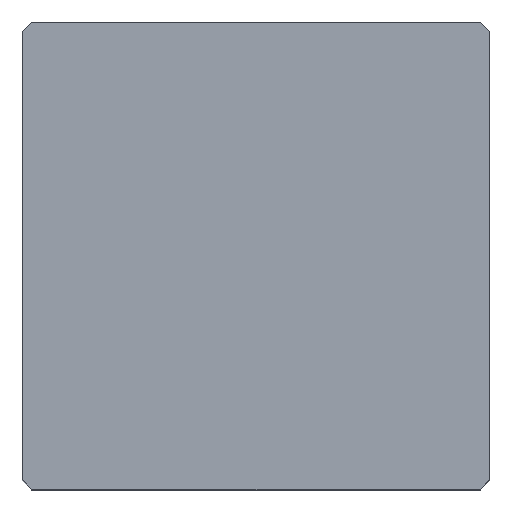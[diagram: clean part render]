
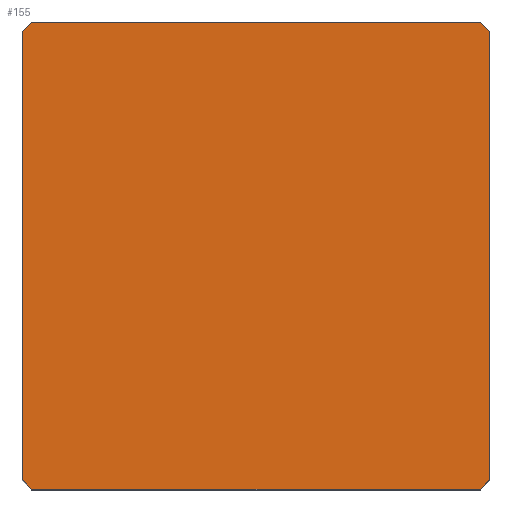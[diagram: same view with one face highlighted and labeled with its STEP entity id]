
A CAD part, top view. The second image highlights one B-rep face of the part: STEP entity #155.
In plain terms, the highlighted planar face has unit normal (0, 0, 1).
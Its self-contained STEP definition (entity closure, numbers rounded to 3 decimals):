
#39 = EDGE_CURVE('',#40,#42,#44,.T.);
#40 = VERTEX_POINT('',#41);
#41 = CARTESIAN_POINT('',(-10.,-9.6,20.75));
#42 = VERTEX_POINT('',#43);
#43 = CARTESIAN_POINT('',(-10.,9.6,20.75));
#44 = SURFACE_CURVE('',#45,(#49,#61),.PCURVE_S1.);
#45 = LINE('',#46,#47);
#46 = CARTESIAN_POINT('',(-10.,-10.,20.75));
#47 = VECTOR('',#48,1.);
#48 = DIRECTION('',(-0.,1.,0.));
#49 = PCURVE('',#50,#55);
#50 = PLANE('',#51);
#51 = AXIS2_PLACEMENT_3D('',#52,#53,#54);
#52 = CARTESIAN_POINT('',(-10.,-10.,0.));
#53 = DIRECTION('',(1.,0.,-0.));
#54 = DIRECTION('',(0.,0.,1.));
#55 = DEFINITIONAL_REPRESENTATION('',(#56),#60);
#56 = LINE('',#57,#58);
#57 = CARTESIAN_POINT('',(20.75,0.));
#58 = VECTOR('',#59,1.);
#59 = DIRECTION('',(0.,-1.));
#60 = ( GEOMETRIC_REPRESENTATION_CONTEXT(2) 
PARAMETRIC_REPRESENTATION_CONTEXT() REPRESENTATION_CONTEXT('2D SPACE',''
  ) );
#61 = PCURVE('',#62,#67);
#62 = PLANE('',#63);
#63 = AXIS2_PLACEMENT_3D('',#64,#65,#66);
#64 = CARTESIAN_POINT('',(-10.,-10.,20.75));
#65 = DIRECTION('',(0.,0.,1.));
#66 = DIRECTION('',(1.,0.,-0.));
#67 = DEFINITIONAL_REPRESENTATION('',(#68),#72);
#68 = LINE('',#69,#70);
#69 = CARTESIAN_POINT('',(0.,0.));
#70 = VECTOR('',#71,1.);
#71 = DIRECTION('',(0.,1.));
#72 = ( GEOMETRIC_REPRESENTATION_CONTEXT(2) 
PARAMETRIC_REPRESENTATION_CONTEXT() REPRESENTATION_CONTEXT('2D SPACE',''
  ) );
#90 = PLANE('',#91);
#91 = AXIS2_PLACEMENT_3D('',#92,#93,#94);
#92 = CARTESIAN_POINT('',(-9.8,-9.8,0.));
#93 = DIRECTION('',(-0.707,-0.707,0.));
#94 = DIRECTION('',(-0.,-0.,-1.));
#144 = PLANE('',#145);
#145 = AXIS2_PLACEMENT_3D('',#146,#147,#148);
#146 = CARTESIAN_POINT('',(-9.8,9.8,0.));
#147 = DIRECTION('',(0.707,-0.707,0.));
#148 = DIRECTION('',(-0.,-0.,-1.));
#155 = ADVANCED_FACE('',(#156),#62,.T.);
#156 = FACE_BOUND('',#157,.T.);
#157 = EDGE_LOOP('',(#158,#159,#182,#210,#238,#266,#294,#322));
#158 = ORIENTED_EDGE('',*,*,#39,.F.);
#159 = ORIENTED_EDGE('',*,*,#160,.T.);
#160 = EDGE_CURVE('',#40,#161,#163,.T.);
#161 = VERTEX_POINT('',#162);
#162 = CARTESIAN_POINT('',(-9.6,-10.,20.75));
#163 = SURFACE_CURVE('',#164,(#168,#175),.PCURVE_S1.);
#164 = LINE('',#165,#166);
#165 = CARTESIAN_POINT('',(-9.8,-9.8,20.75));
#166 = VECTOR('',#167,1.);
#167 = DIRECTION('',(0.707,-0.707,0.));
#168 = PCURVE('',#62,#169);
#169 = DEFINITIONAL_REPRESENTATION('',(#170),#174);
#170 = LINE('',#171,#172);
#171 = CARTESIAN_POINT('',(0.2,0.2));
#172 = VECTOR('',#173,1.);
#173 = DIRECTION('',(0.707,-0.707));
#174 = ( GEOMETRIC_REPRESENTATION_CONTEXT(2) 
PARAMETRIC_REPRESENTATION_CONTEXT() REPRESENTATION_CONTEXT('2D SPACE',''
  ) );
#175 = PCURVE('',#90,#176);
#176 = DEFINITIONAL_REPRESENTATION('',(#177),#181);
#177 = LINE('',#178,#179);
#178 = CARTESIAN_POINT('',(-20.75,0.));
#179 = VECTOR('',#180,1.);
#180 = DIRECTION('',(-0.,1.));
#181 = ( GEOMETRIC_REPRESENTATION_CONTEXT(2) 
PARAMETRIC_REPRESENTATION_CONTEXT() REPRESENTATION_CONTEXT('2D SPACE',''
  ) );
#182 = ORIENTED_EDGE('',*,*,#183,.T.);
#183 = EDGE_CURVE('',#161,#184,#186,.T.);
#184 = VERTEX_POINT('',#185);
#185 = CARTESIAN_POINT('',(9.6,-10.,20.75));
#186 = SURFACE_CURVE('',#187,(#191,#198),.PCURVE_S1.);
#187 = LINE('',#188,#189);
#188 = CARTESIAN_POINT('',(-10.,-10.,20.75));
#189 = VECTOR('',#190,1.);
#190 = DIRECTION('',(1.,0.,-0.));
#191 = PCURVE('',#62,#192);
#192 = DEFINITIONAL_REPRESENTATION('',(#193),#197);
#193 = LINE('',#194,#195);
#194 = CARTESIAN_POINT('',(0.,0.));
#195 = VECTOR('',#196,1.);
#196 = DIRECTION('',(1.,0.));
#197 = ( GEOMETRIC_REPRESENTATION_CONTEXT(2) 
PARAMETRIC_REPRESENTATION_CONTEXT() REPRESENTATION_CONTEXT('2D SPACE',''
  ) );
#198 = PCURVE('',#199,#204);
#199 = PLANE('',#200);
#200 = AXIS2_PLACEMENT_3D('',#201,#202,#203);
#201 = CARTESIAN_POINT('',(-10.,-10.,0.));
#202 = DIRECTION('',(-0.,1.,0.));
#203 = DIRECTION('',(0.,0.,1.));
#204 = DEFINITIONAL_REPRESENTATION('',(#205),#209);
#205 = LINE('',#206,#207);
#206 = CARTESIAN_POINT('',(20.75,0.));
#207 = VECTOR('',#208,1.);
#208 = DIRECTION('',(0.,1.));
#209 = ( GEOMETRIC_REPRESENTATION_CONTEXT(2) 
PARAMETRIC_REPRESENTATION_CONTEXT() REPRESENTATION_CONTEXT('2D SPACE',''
  ) );
#210 = ORIENTED_EDGE('',*,*,#211,.F.);
#211 = EDGE_CURVE('',#212,#184,#214,.T.);
#212 = VERTEX_POINT('',#213);
#213 = CARTESIAN_POINT('',(10.,-9.6,20.75));
#214 = SURFACE_CURVE('',#215,(#219,#226),.PCURVE_S1.);
#215 = LINE('',#216,#217);
#216 = CARTESIAN_POINT('',(4.8,-14.8,20.75));
#217 = VECTOR('',#218,1.);
#218 = DIRECTION('',(-0.707,-0.707,0.));
#219 = PCURVE('',#62,#220);
#220 = DEFINITIONAL_REPRESENTATION('',(#221),#225);
#221 = LINE('',#222,#223);
#222 = CARTESIAN_POINT('',(14.8,-4.8));
#223 = VECTOR('',#224,1.);
#224 = DIRECTION('',(-0.707,-0.707));
#225 = ( GEOMETRIC_REPRESENTATION_CONTEXT(2) 
PARAMETRIC_REPRESENTATION_CONTEXT() REPRESENTATION_CONTEXT('2D SPACE',''
  ) );
#226 = PCURVE('',#227,#232);
#227 = PLANE('',#228);
#228 = AXIS2_PLACEMENT_3D('',#229,#230,#231);
#229 = CARTESIAN_POINT('',(9.8,-9.8,0.));
#230 = DIRECTION('',(-0.707,0.707,0.));
#231 = DIRECTION('',(-0.,-0.,-1.));
#232 = DEFINITIONAL_REPRESENTATION('',(#233),#237);
#233 = LINE('',#234,#235);
#234 = CARTESIAN_POINT('',(-20.75,7.071));
#235 = VECTOR('',#236,1.);
#236 = DIRECTION('',(-0.,1.));
#237 = ( GEOMETRIC_REPRESENTATION_CONTEXT(2) 
PARAMETRIC_REPRESENTATION_CONTEXT() REPRESENTATION_CONTEXT('2D SPACE',''
  ) );
#238 = ORIENTED_EDGE('',*,*,#239,.T.);
#239 = EDGE_CURVE('',#212,#240,#242,.T.);
#240 = VERTEX_POINT('',#241);
#241 = CARTESIAN_POINT('',(10.,9.6,20.75));
#242 = SURFACE_CURVE('',#243,(#247,#254),.PCURVE_S1.);
#243 = LINE('',#244,#245);
#244 = CARTESIAN_POINT('',(10.,-10.,20.75));
#245 = VECTOR('',#246,1.);
#246 = DIRECTION('',(-0.,1.,0.));
#247 = PCURVE('',#62,#248);
#248 = DEFINITIONAL_REPRESENTATION('',(#249),#253);
#249 = LINE('',#250,#251);
#250 = CARTESIAN_POINT('',(20.,0.));
#251 = VECTOR('',#252,1.);
#252 = DIRECTION('',(0.,1.));
#253 = ( GEOMETRIC_REPRESENTATION_CONTEXT(2) 
PARAMETRIC_REPRESENTATION_CONTEXT() REPRESENTATION_CONTEXT('2D SPACE',''
  ) );
#254 = PCURVE('',#255,#260);
#255 = PLANE('',#256);
#256 = AXIS2_PLACEMENT_3D('',#257,#258,#259);
#257 = CARTESIAN_POINT('',(10.,-10.,0.));
#258 = DIRECTION('',(1.,0.,-0.));
#259 = DIRECTION('',(0.,0.,1.));
#260 = DEFINITIONAL_REPRESENTATION('',(#261),#265);
#261 = LINE('',#262,#263);
#262 = CARTESIAN_POINT('',(20.75,0.));
#263 = VECTOR('',#264,1.);
#264 = DIRECTION('',(0.,-1.));
#265 = ( GEOMETRIC_REPRESENTATION_CONTEXT(2) 
PARAMETRIC_REPRESENTATION_CONTEXT() REPRESENTATION_CONTEXT('2D SPACE',''
  ) );
#266 = ORIENTED_EDGE('',*,*,#267,.T.);
#267 = EDGE_CURVE('',#240,#268,#270,.T.);
#268 = VERTEX_POINT('',#269);
#269 = CARTESIAN_POINT('',(9.6,10.,20.75));
#270 = SURFACE_CURVE('',#271,(#275,#282),.PCURVE_S1.);
#271 = LINE('',#272,#273);
#272 = CARTESIAN_POINT('',(9.8,9.8,20.75));
#273 = VECTOR('',#274,1.);
#274 = DIRECTION('',(-0.707,0.707,0.));
#275 = PCURVE('',#62,#276);
#276 = DEFINITIONAL_REPRESENTATION('',(#277),#281);
#277 = LINE('',#278,#279);
#278 = CARTESIAN_POINT('',(19.8,19.8));
#279 = VECTOR('',#280,1.);
#280 = DIRECTION('',(-0.707,0.707));
#281 = ( GEOMETRIC_REPRESENTATION_CONTEXT(2) 
PARAMETRIC_REPRESENTATION_CONTEXT() REPRESENTATION_CONTEXT('2D SPACE',''
  ) );
#282 = PCURVE('',#283,#288);
#283 = PLANE('',#284);
#284 = AXIS2_PLACEMENT_3D('',#285,#286,#287);
#285 = CARTESIAN_POINT('',(9.8,9.8,0.));
#286 = DIRECTION('',(0.707,0.707,0.));
#287 = DIRECTION('',(-0.,0.,-1.));
#288 = DEFINITIONAL_REPRESENTATION('',(#289),#293);
#289 = LINE('',#290,#291);
#290 = CARTESIAN_POINT('',(-20.75,0.));
#291 = VECTOR('',#292,1.);
#292 = DIRECTION('',(-0.,1.));
#293 = ( GEOMETRIC_REPRESENTATION_CONTEXT(2) 
PARAMETRIC_REPRESENTATION_CONTEXT() REPRESENTATION_CONTEXT('2D SPACE',''
  ) );
#294 = ORIENTED_EDGE('',*,*,#295,.F.);
#295 = EDGE_CURVE('',#296,#268,#298,.T.);
#296 = VERTEX_POINT('',#297);
#297 = CARTESIAN_POINT('',(-9.6,10.,20.75));
#298 = SURFACE_CURVE('',#299,(#303,#310),.PCURVE_S1.);
#299 = LINE('',#300,#301);
#300 = CARTESIAN_POINT('',(-10.,10.,20.75));
#301 = VECTOR('',#302,1.);
#302 = DIRECTION('',(1.,0.,-0.));
#303 = PCURVE('',#62,#304);
#304 = DEFINITIONAL_REPRESENTATION('',(#305),#309);
#305 = LINE('',#306,#307);
#306 = CARTESIAN_POINT('',(0.,20.));
#307 = VECTOR('',#308,1.);
#308 = DIRECTION('',(1.,0.));
#309 = ( GEOMETRIC_REPRESENTATION_CONTEXT(2) 
PARAMETRIC_REPRESENTATION_CONTEXT() REPRESENTATION_CONTEXT('2D SPACE',''
  ) );
#310 = PCURVE('',#311,#316);
#311 = PLANE('',#312);
#312 = AXIS2_PLACEMENT_3D('',#313,#314,#315);
#313 = CARTESIAN_POINT('',(-10.,10.,0.));
#314 = DIRECTION('',(-0.,1.,0.));
#315 = DIRECTION('',(0.,0.,1.));
#316 = DEFINITIONAL_REPRESENTATION('',(#317),#321);
#317 = LINE('',#318,#319);
#318 = CARTESIAN_POINT('',(20.75,0.));
#319 = VECTOR('',#320,1.);
#320 = DIRECTION('',(0.,1.));
#321 = ( GEOMETRIC_REPRESENTATION_CONTEXT(2) 
PARAMETRIC_REPRESENTATION_CONTEXT() REPRESENTATION_CONTEXT('2D SPACE',''
  ) );
#322 = ORIENTED_EDGE('',*,*,#323,.F.);
#323 = EDGE_CURVE('',#42,#296,#324,.T.);
#324 = SURFACE_CURVE('',#325,(#329,#336),.PCURVE_S1.);
#325 = LINE('',#326,#327);
#326 = CARTESIAN_POINT('',(-14.8,4.8,20.75));
#327 = VECTOR('',#328,1.);
#328 = DIRECTION('',(0.707,0.707,-0.));
#329 = PCURVE('',#62,#330);
#330 = DEFINITIONAL_REPRESENTATION('',(#331),#335);
#331 = LINE('',#332,#333);
#332 = CARTESIAN_POINT('',(-4.8,14.8));
#333 = VECTOR('',#334,1.);
#334 = DIRECTION('',(0.707,0.707));
#335 = ( GEOMETRIC_REPRESENTATION_CONTEXT(2) 
PARAMETRIC_REPRESENTATION_CONTEXT() REPRESENTATION_CONTEXT('2D SPACE',''
  ) );
#336 = PCURVE('',#144,#337);
#337 = DEFINITIONAL_REPRESENTATION('',(#338),#342);
#338 = LINE('',#339,#340);
#339 = CARTESIAN_POINT('',(-20.75,-7.071));
#340 = VECTOR('',#341,1.);
#341 = DIRECTION('',(-0.,1.));
#342 = ( GEOMETRIC_REPRESENTATION_CONTEXT(2) 
PARAMETRIC_REPRESENTATION_CONTEXT() REPRESENTATION_CONTEXT('2D SPACE',''
  ) );
